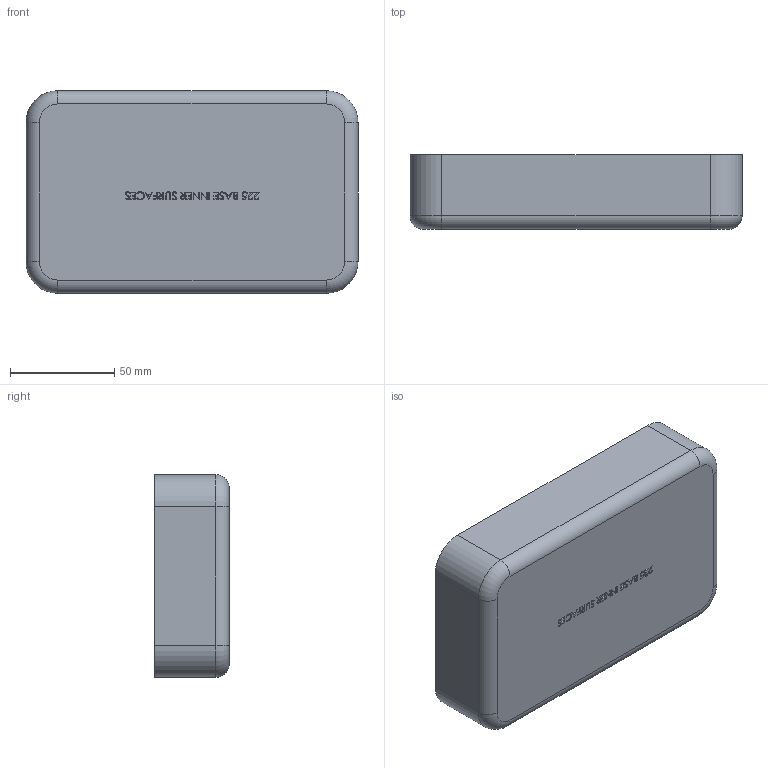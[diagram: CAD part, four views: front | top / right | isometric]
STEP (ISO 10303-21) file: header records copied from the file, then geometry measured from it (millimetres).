
FILE_DESCRIPTION (( 'STEP AP203' ), '1' );
FILE_NAME ('225_BASE INNER SURFACES_STEP.STEP', '2023-08-29T14:07:26', ( '' ), ( '' ), 'SwSTEP 2.0', 'SolidWorks 2022', '' );
FILE_SCHEMA (( 'CONFIG_CONTROL_DESIGN' ));
Length unit declared in the file: inch
Products named in the file (1): 225_BASE INNER SURFACES_STEP
Bounding box: 158.98 x 35.56 x 97 mm (x, y, z)
Volume: 141281.6 mm3; surface area: 59543.6 mm2
Topology: 1 solids, 1 shells, 644 faces, 1629 edges, 1004 vertices
Faces by surface type: bspline 276, plane 238, cylinder 72, torus 34, cone 16, sphere 8
Entity records: 33327 total; most frequent: CARTESIAN_POINT 19724, ORIENTED_EDGE 3226, DIRECTION 2135, EDGE_CURVE 1613, VERTEX_POINT 1004, VECTOR 777, LINE 777, AXIS2_PLACEMENT_3D 679
